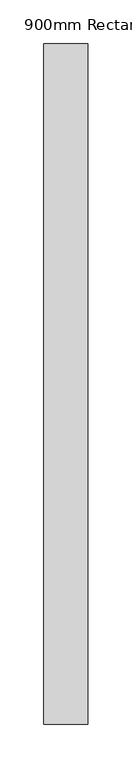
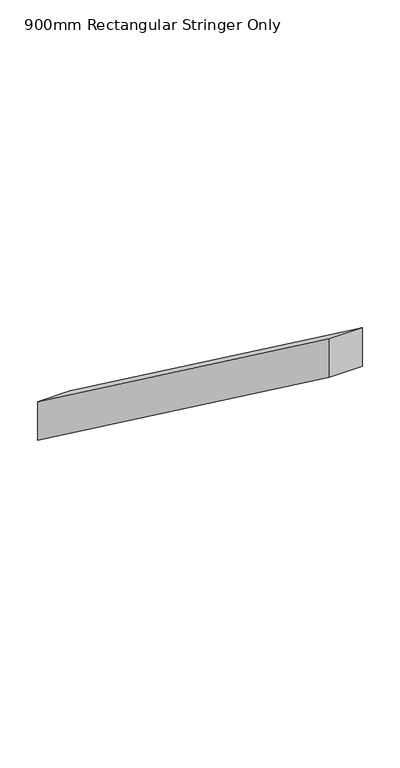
"""IFC4 building model written with IfcOpenShell, lengths in millimetres: railing geometry, 900mm Rectangular Stringer Only."""

import ifcopenshell
import ifcopenshell.guid

model = None  # the IFC model being written
_history = None  # IfcOwnerHistory: only IFC2X3 demands one
_inside = {}  # id of a spatial element -> (the spatial element, [elements in it])
_under = {}  # id of a project, library or spatial element -> (it, [spatial elements below it])
_declared = {}  # id of a project -> (the project, [libraries it declares])
_typed = {}  # id of a type object -> (the type object, [elements of that type])
_made_of = {}  # id of a material, layer set ... -> (it, [elements and type objects made of it])


def new_model(schema):
    """Start an empty IFC model of exactly this schema.

    Asked for "IFC4X3", IfcOpenShell would pick the latest addendum, in which some entities
    have other attributes; the version numbers below select the first issue.
    IFC2X3 requires an IfcOwnerHistory on every rooted entity: one is made here for all.
    """
    global model, _history
    if schema == "IFC4X3":
        model = ifcopenshell.file(schema_version=(4, 3, 0, 0))
    else:
        model = ifcopenshell.file(schema=schema)
    _inside.clear()
    _under.clear()
    _declared.clear()
    _typed.clear()
    _made_of.clear()
    _history = None
    if model.schema == "IFC2X3":
        org = make("IfcOrganization", Name="unknown")
        user = make(
            "IfcPersonAndOrganization",
            ThePerson=make("IfcPerson", FamilyName="unknown"),
            TheOrganization=org,
        )
        app = make(
            "IfcApplication",
            ApplicationDeveloper=org,
            Version="unknown",
            ApplicationFullName="unknown",
            ApplicationIdentifier="unknown",
        )
        _history = make(
            "IfcOwnerHistory",
            OwningUser=user,
            OwningApplication=app,
            ChangeAction="ADDED",
            CreationDate=0,
        )
    return model


def make(cls, **values):
    """One entity of the class cls with the attributes given. An attribute that is None is left unset."""
    return model.create_entity(
        cls, **{name: value for name, value in values.items() if value is not None}
    )


def rooted(cls, **values):
    """An entity with a GlobalId (a new one), such as an element, a storey or a relation."""
    return make(cls, GlobalId=ifcopenshell.guid.new(), OwnerHistory=_history, **values)


def si_unit(unit_type, name, prefix=None):
    """IfcSIUnit, for example si_unit("LENGTHUNIT", "METRE", prefix="MILLI")."""
    return make("IfcSIUnit", UnitType=unit_type, Prefix=prefix, Name=name)


def assignment(units):
    """IfcUnitAssignment: the units of a project."""
    return None if units is None else make("IfcUnitAssignment", Units=units)


def point(xyz):
    """IfcCartesianPoint."""
    return None if xyz is None else make("IfcCartesianPoint", Coordinates=xyz)


def direction(xyz):
    """IfcDirection."""
    return None if xyz is None else make("IfcDirection", DirectionRatios=xyz)


def frame(location, z_axis=None, x_axis=None):
    """IfcAxis2Placement3D, a coordinate frame: its origin and axes. An axis left out is left unset."""
    return make(
        "IfcAxis2Placement3D",
        Location=point(location),
        Axis=direction(z_axis),
        RefDirection=direction(x_axis),
    )


def origin():
    """The frame at (0, 0, 0) with its axes left unset."""
    return frame((0.0, 0.0, 0.0))


def place(relative_to, where):
    """IfcLocalPlacement: puts the frame where relative to a parent placement (None: the world)."""
    return make(
        "IfcLocalPlacement", PlacementRelTo=relative_to, RelativePlacement=where
    )


def context(
    kind, dimensions, precision=None, world=None, true_north=None, identifier=None
):
    """IfcGeometricRepresentationContext, for example the 3D "Model" context."""
    return make(
        "IfcGeometricRepresentationContext",
        ContextIdentifier=identifier,
        ContextType=kind,
        CoordinateSpaceDimension=dimensions,
        Precision=precision,
        WorldCoordinateSystem=world,
        TrueNorth=true_north,
    )


def project(units=None, contexts=None):
    """IfcProject with its units and contexts."""
    return rooted(
        "IfcProject",
        Name="project",
        RepresentationContexts=contexts,
        UnitsInContext=assignment(units),
    )


def spatial(cls, under=None, at=None, **own):
    """A site, building, storey or space (cls), placed at a placement, below another one or the project."""
    s = rooted(cls, ObjectPlacement=at, **own)
    if under is not None:
        _under.setdefault(under.id(), (under, []))[1].append(s)
    return s


def polyline(points):
    """IfcPolyline through the points."""
    return make("IfcPolyline", Points=[point(p) for p in points])


def outline(outer, holes=None, kind="AREA"):
    """IfcArbitraryClosedProfileDef: a profile drawn as a closed curve; with holes, ...WithVoids."""
    if holes is None:
        return make("IfcArbitraryClosedProfileDef", ProfileType=kind, OuterCurve=outer)
    return make(
        "IfcArbitraryProfileDefWithVoids",
        ProfileType=kind,
        OuterCurve=outer,
        InnerCurves=holes,
    )


def extrude(swept, where, along, depth):
    """IfcExtrudedAreaSolid: the profile swept, set in the frame where, extruded along a direction by depth."""
    return make(
        "IfcExtrudedAreaSolid",
        SweptArea=swept,
        Position=where,
        ExtrudedDirection=direction(along),
        Depth=depth,
    )


def shape(context_of_items, identifier, shape_type, items):
    """IfcShapeRepresentation: the items that make up one representation, for example the "Body"."""
    return make(
        "IfcShapeRepresentation",
        ContextOfItems=context_of_items,
        RepresentationIdentifier=identifier,
        RepresentationType=shape_type,
        Items=items,
    )


def source(mapping_origin, context_of_items, identifier, shape_type, items):
    """IfcRepresentationMap: a shape defined once, which mapped items show again and again."""
    return make(
        "IfcRepresentationMap",
        MappingOrigin=mapping_origin,
        MappedRepresentation=shape(context_of_items, identifier, shape_type, items),
    )


def transform(
    local_origin,
    x_axis=None,
    y_axis=None,
    z_axis=None,
    scale=None,
    scale2=None,
    scale3=None,
    uniform=True,
):
    """IfcCartesianTransformationOperator3D, or its non-uniform kind. x_axis, y_axis, z_axis: its Axis1, 2, 3."""
    if uniform:
        return make(
            "IfcCartesianTransformationOperator3D",
            Axis1=direction(x_axis),
            Axis2=direction(y_axis),
            LocalOrigin=point(local_origin),
            Scale=scale,
            Axis3=direction(z_axis),
        )
    return make(
        "IfcCartesianTransformationOperator3DnonUniform",
        Axis1=direction(x_axis),
        Axis2=direction(y_axis),
        LocalOrigin=point(local_origin),
        Scale=scale,
        Axis3=direction(z_axis),
        Scale2=scale2,
        Scale3=scale3,
    )


def mapped(mapping_source, mapping_target):
    """IfcMappedItem: shows the shape of a source again, moved by a transform."""
    return make(
        "IfcMappedItem", MappingSource=mapping_source, MappingTarget=mapping_target
    )


def made_of(thing, what):
    """Note that an element or type object is made of a material, layer set ...; save() writes the relation."""
    if what is not None:
        _made_of.setdefault(what.id(), (what, []))[1].append(thing)
    return thing


def element(
    cls,
    number,
    at=None,
    inside=None,
    cuts=None,
    type_object=None,
    material=None,
    context=None,
    identifier="Body",
    shape_type=None,
    held_by="IfcProductDefinitionShape",
    body=None,
    shapes=None,
    **own,
):
    """One element of the class cls, such as IfcWall. Its Tag is "e" and its number.

    at: its placement. inside: the storey or other place that contains it. cuts: it is an
    opening in that element (IfcRelVoidsElement). A single representation is given by context,
    identifier, shape_type and body (its items); several are given by shapes. held_by: the class
    of the entity that holds the representations. save() writes the other relations.
    """
    e = rooted(cls, Tag="e%d" % number, ObjectPlacement=at, **own)
    if body is not None:
        shapes = [shape(context, identifier, shape_type, body)]
    if shapes is not None:
        e.Representation = make(held_by, Representations=shapes)
    if inside is not None:
        _inside.setdefault(inside.id(), (inside, []))[1].append(e)
    if cuts is not None:
        rooted(
            "IfcRelVoidsElement", RelatingBuildingElement=cuts, RelatedOpeningElement=e
        )
    if type_object is not None:
        _typed.setdefault(type_object.id(), (type_object, []))[1].append(e)
    return made_of(e, material)


def aggregate(whole, parts):
    """IfcRelAggregates: a whole, such as a stair, and the parts it consists of."""
    return rooted("IfcRelAggregates", RelatingObject=whole, RelatedObjects=parts)


def save(model, path):
    """Write the relations noted so far, then the file.

    IfcRelAggregates (storeys below a building ...), IfcRelContainedInSpatialStructure (elements
    in a storey), IfcRelDefinesByType, IfcRelAssociatesMaterial and IfcRelDeclares: one each for
    every whole, place, type object, material and project.
    """
    for whole, parts in _under.values():
        aggregate(whole, parts)
    for where, things in _inside.values():
        rooted(
            "IfcRelContainedInSpatialStructure",
            RelatedElements=things,
            RelatingStructure=where,
        )
    for kind, things in _typed.values():
        rooted("IfcRelDefinesByType", RelatedObjects=things, RelatingType=kind)
    for what, things in _made_of.values():
        rooted("IfcRelAssociatesMaterial", RelatedObjects=things, RelatingMaterial=what)
    for by, libraries in _declared.values():
        rooted("IfcRelDeclares", RelatingContext=by, RelatedDefinitions=libraries)
    model.write(path)


def railing_900mm_rectangular_stringer_only_fc214f1d(model_context):
    return source(origin(), model_context, "Body", "SweptSolid", [
        extrude(outline(polyline([(3632.2, 3833.7), (3632.2, 3771.5671251), (2857.4922485, 4343.0671251), (2857.4922485, 4405.2), (3632.2, 3833.7)])), frame((-5251.05, 0.0, 0.0), z_axis=(1.0, 0.0, 0.0), x_axis=(0.0, 1.0, 0.0)), (0.0, 0.0, 1.0), 50.0),
    ])


if __name__ == "__main__":
    model = new_model("IFC4")
    model_context = context("Model", 3, world=origin())
    ifc_project = project(units=[si_unit("LENGTHUNIT", "METRE", prefix="MILLI")], contexts=[model_context])
    site = spatial("IfcSite", under=ifc_project)
    building = spatial("IfcBuilding", under=site)
    placement = place(None, origin())
    railing_900mm_rectangular_stringer_only_shape = railing_900mm_rectangular_stringer_only_fc214f1d(model_context)
    element("IfcRailing", 1, ObjectType="900mm Rectangular Stringer Only", at=placement, inside=building, context=model_context, shape_type="MappedRepresentation", body=[
        mapped(railing_900mm_rectangular_stringer_only_shape, transform((0.0, 0.0, 0.0), x_axis=(1.0, 0.0, 0.0), y_axis=(0.0, 1.0, 0.0), z_axis=(0.0, 0.0, 1.0))),
    ])
    save(model, "model.ifc")
